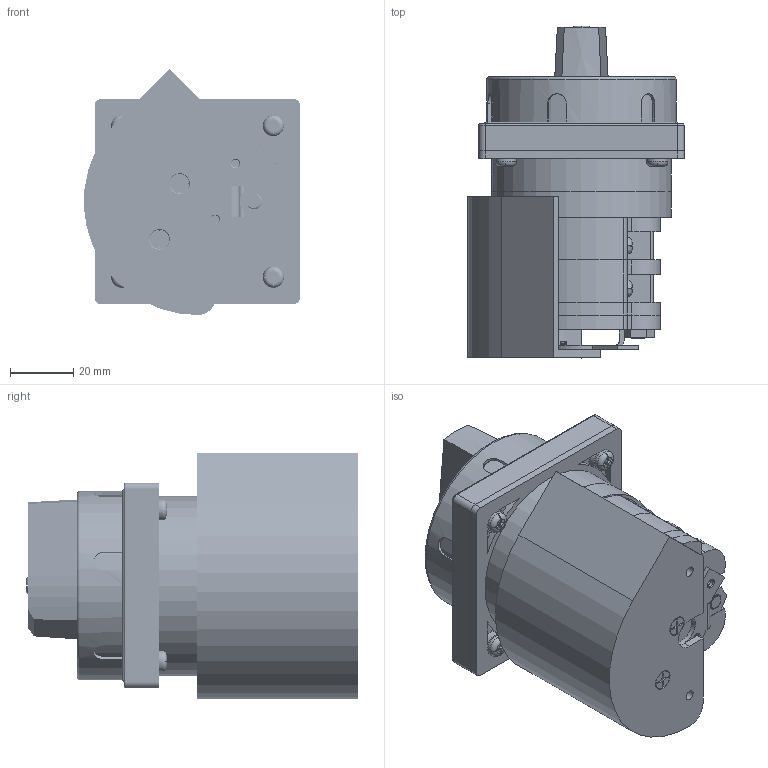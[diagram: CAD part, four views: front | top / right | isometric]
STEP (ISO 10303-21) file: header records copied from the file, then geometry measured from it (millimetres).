
FILE_DESCRIPTION(/* description */ (''),/* implementation_level */ '2;1');
FILE_NAME(/* name */ '4G16,25_S25.stp',/* time_stamp */ '2021-07-20T14:47:53+02:00',/* author */ (''),/* organization */ (''),/* preprocessor_version */ 'ST-DEVELOPER v16',/* originating_system */ 'SIEMENS PLM Software NX 10.0',/* authorisation */ '');
FILE_SCHEMA (('AUTOMOTIVE_DESIGN { 1 0 10303 214 3 1 1 1 }'));
Products named in the file (1): 4G16,25_S25_stp
Bounding box: 68.44 x 105.1 x 77.96 mm (x, y, z)
Volume: 211854.8 mm3; surface area: 97374.8 mm2
Topology: 30 solids, 30 shells, 1157 faces, 3188 edges, 2091 vertices
Faces by surface type: plane 624, cylinder 341, bspline 116, cone 35, extrusion 26, torus 15
Full cylindrical faces by diameter (mm): 2.1 x14, 2.5 x4, 2.9 x6, 3.1 x1, 3.2 x2, 3.3 x3, 4.3 x4, 5 x2, 5.4 x12, 5.5 x2, 5.6 x1, 6 x1, 6.7 x4, 7.2 x4, 8 x1, 10 x1, 14 x1, 55.8 x1, 57 x2, 58 x1, 60 x1
Entity records: 125830 total; most frequent: CARTESIAN_POINT 92325, ORIENTED_EDGE 5916, DIRECTION 5053, EDGE_CURVE 2958, VERTEX_POINT 1978, AXIS2_PLACEMENT_3D 1776, VECTOR 1501, LINE 1475
